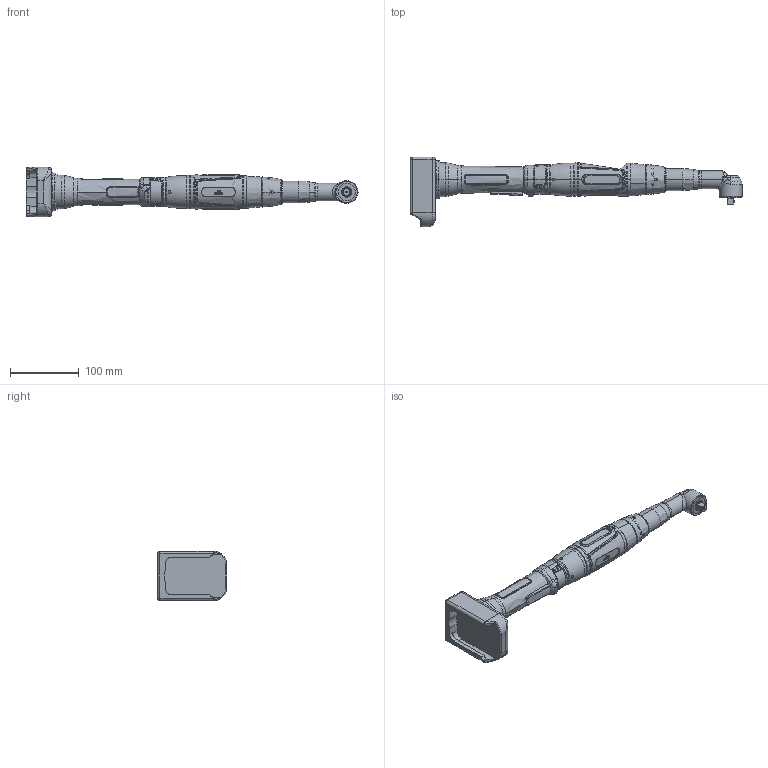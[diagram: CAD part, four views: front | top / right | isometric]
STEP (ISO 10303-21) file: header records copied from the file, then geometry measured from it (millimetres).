
FILE_DESCRIPTION (( 'STEP AP203' ), '1' );
FILE_NAME ('70122786_HSXBW1039WV38.STEP', '2025-09-30T07:38:21', ( '' ), ( '' ), 'SwSTEP 2.0', 'SolidWorks 2020', '' );
FILE_SCHEMA (( 'CONFIG_CONTROL_DESIGN' ));
Length unit declared in the file: millimetre
Products named in the file (4): 70122760; 70122786_HSXBW1039WV38; 70206244; 70122772
Assembly tree (3 placements, depth 2):
  70122786_HSXBW1039WV38
    70122760
    70206244
    70122772
Bounding box: 481.8 x 101 x 72 mm (x, y, z)
Volume: 762548.1 mm3; surface area: 105533.7 mm2
Topology: 5 solids, 5 shells, 1039 faces, 2591 edges, 1599 vertices
Faces by surface type: bspline 358, cylinder 252, plane 252, torus 92, cone 77, sphere 8
Entity records: 55487 total; most frequent: CARTESIAN_POINT 33095, ORIENTED_EDGE 5146, DIRECTION 3809, EDGE_CURVE 2573, VERTEX_POINT 1599, AXIS2_PLACEMENT_3D 1494, EDGE_LOOP 1098, ADVANCED_FACE 1039
